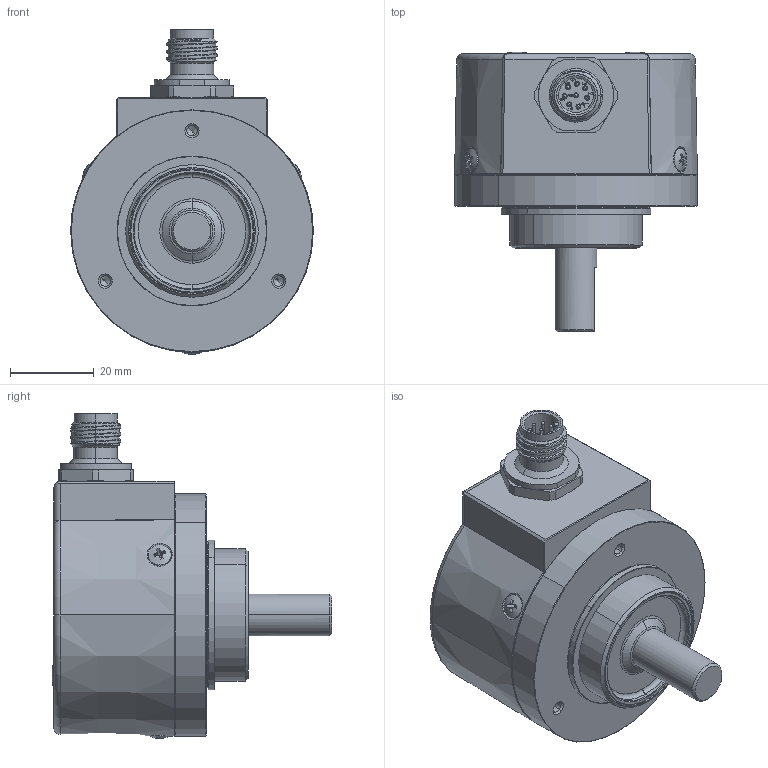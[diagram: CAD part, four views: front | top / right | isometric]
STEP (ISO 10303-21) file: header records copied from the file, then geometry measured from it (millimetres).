
FILE_DESCRIPTION (( 'STEP AP214' ), '1' );
FILE_NAME ('PMS11PT0.STEP', '2024-01-29T13:29:37', ( '' ), ( '' ), 'SwSTEP 2.0', 'SolidWorks 2019', '' );
FILE_SCHEMA (( 'AUTOMOTIVE_DESIGN' ));
Length unit declared in the file: millimetre
Products named in the file (1): PMS11PT0
Bounding box: 58.14 x 67.05 x 77.73 mm (x, y, z)
Volume: 64434.8 mm3; surface area: 32264 mm2
Topology: 1 solids, 12 shells, 617 faces, 1519 edges, 944 vertices
Faces by surface type: plane 170, cone 165, cylinder 162, bspline 79, torus 33, sphere 8
Entity records: 29907 total; most frequent: CARTESIAN_POINT 9223, ORIENTED_EDGE 2930, DIRECTION 2817, EDGE_CURVE 1465, AXIS2_PLACEMENT_3D 1156, VERTEX_POINT 928, EDGE_LOOP 693, UNCERTAINTY_MEASURE_WITH_UNIT 619
